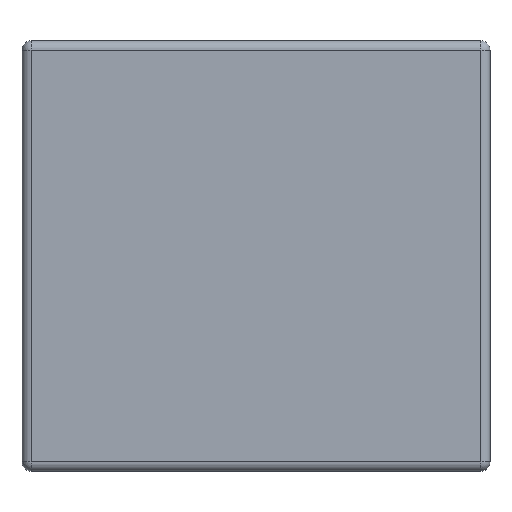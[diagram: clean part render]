
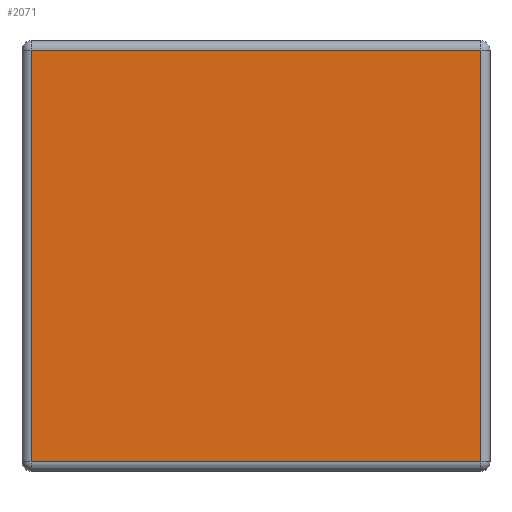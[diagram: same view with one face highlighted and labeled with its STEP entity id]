
A CAD part, front view. The second image highlights one B-rep face of the part: STEP entity #2071.
In plain terms, the highlighted planar face has unit normal (0, -1, 0).
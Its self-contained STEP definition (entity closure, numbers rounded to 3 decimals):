
#25=DIRECTION('',(1.,0.,0.));
#26=VECTOR('',#25,24.);
#27=CARTESIAN_POINT('',(-12.,0.,11.));
#28=LINE('',#27,#26);
#128=DIRECTION('',(0.,0.,1.));
#129=VECTOR('',#128,22.);
#130=CARTESIAN_POINT('',(-12.,0.,-11.));
#131=LINE('',#130,#129);
#962=DIRECTION('',(0.,0.,-1.));
#963=VECTOR('',#962,22.);
#964=CARTESIAN_POINT('',(12.,0.,11.));
#965=LINE('',#964,#963);
#1000=DIRECTION('',(-1.,0.,0.));
#1001=VECTOR('',#1000,24.);
#1002=CARTESIAN_POINT('',(12.,0.,-11.));
#1003=LINE('',#1002,#1001);
#1120=CARTESIAN_POINT('',(12.,0.,11.));
#1121=CARTESIAN_POINT('',(12.,0.,-11.));
#1122=VERTEX_POINT('',#1120);
#1123=VERTEX_POINT('',#1121);
#1124=CARTESIAN_POINT('',(-12.,0.,11.));
#1125=VERTEX_POINT('',#1124);
#1126=CARTESIAN_POINT('',(-12.,0.,-11.));
#1127=VERTEX_POINT('',#1126);
#2060=CARTESIAN_POINT('',(0.,0.,0.));
#2061=DIRECTION('',(0.,1.,0.));
#2062=DIRECTION('',(0.,0.,1.));
#2063=AXIS2_PLACEMENT_3D('',#2060,#2061,#2062);
#2064=PLANE('',#2063);
#2065=ORIENTED_EDGE('',*,*,#2027,.T.);
#2066=ORIENTED_EDGE('',*,*,#2053,.T.);
#2067=ORIENTED_EDGE('',*,*,#1302,.T.);
#2068=ORIENTED_EDGE('',*,*,#1215,.T.);
#2069=EDGE_LOOP('',(#2065,#2066,#2067,#2068));
#2070=FACE_OUTER_BOUND('',#2069,.F.);
#2071=ADVANCED_FACE('',(#2070),#2064,.F.);
#1215=EDGE_CURVE('',#1125,#1122,#28,.T.);
#1302=EDGE_CURVE('',#1127,#1125,#131,.T.);
#2027=EDGE_CURVE('',#1122,#1123,#965,.T.);
#2053=EDGE_CURVE('',#1123,#1127,#1003,.T.);
